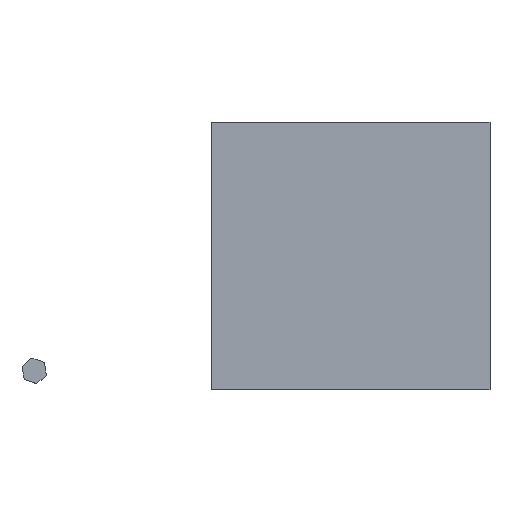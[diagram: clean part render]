
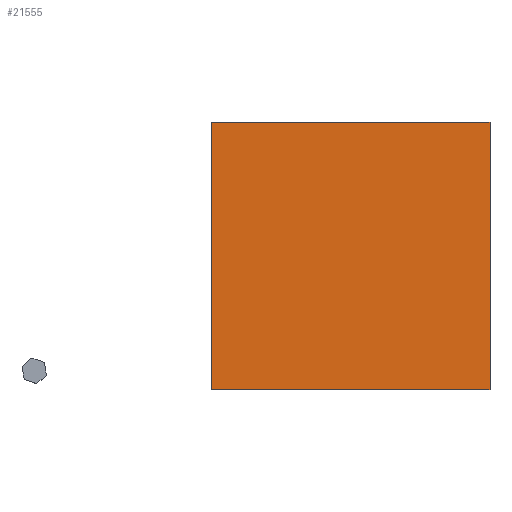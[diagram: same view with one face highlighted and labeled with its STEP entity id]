
A CAD part, top view. The second image highlights one B-rep face of the part: STEP entity #21555.
In plain terms, the highlighted planar face has unit normal (0, 0, 1).
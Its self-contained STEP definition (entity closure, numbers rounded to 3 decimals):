
#1966=PLANE('',#23663);
#3217=FACE_OUTER_BOUND('',#4700,.T.);
#4700=EDGE_LOOP('',(#19904,#19905,#19906,#19907));
#6923=LINE('',#37442,#9224);
#6948=LINE('',#37491,#9249);
#6952=LINE('',#37500,#9253);
#6954=LINE('',#37503,#9255);
#9224=VECTOR('',#29336,10.);
#9249=VECTOR('',#29377,10.);
#9253=VECTOR('',#29387,10.);
#9255=VECTOR('',#29391,10.);
#11449=VERTEX_POINT('',#37440);
#11450=VERTEX_POINT('',#37441);
#11466=VERTEX_POINT('',#37489);
#11468=VERTEX_POINT('',#37499);
#14264=EDGE_CURVE('',#11449,#11450,#6923,.T.);
#14289=EDGE_CURVE('',#11466,#11449,#6948,.T.);
#14293=EDGE_CURVE('',#11468,#11450,#6952,.T.);
#14295=EDGE_CURVE('',#11466,#11468,#6954,.T.);
#19904=ORIENTED_EDGE('',*,*,#14295,.T.);
#19905=ORIENTED_EDGE('',*,*,#14293,.T.);
#19906=ORIENTED_EDGE('',*,*,#14264,.F.);
#19907=ORIENTED_EDGE('',*,*,#14289,.F.);
#21555=ADVANCED_FACE('',(#3217),#1966,.T.);
#23663=AXIS2_PLACEMENT_3D('',#37504,#29392,#29393);
#29336=DIRECTION('',(0.,-1.,0.));
#29377=DIRECTION('',(1.,0.,0.));
#29387=DIRECTION('',(1.,0.,0.));
#29391=DIRECTION('',(0.,-1.,0.));
#29392=DIRECTION('center_axis',(0.,0.,1.));
#29393=DIRECTION('ref_axis',(0.,1.,0.));
#37440=CARTESIAN_POINT('',(71.,66.,16.));
#37441=CARTESIAN_POINT('',(71.,-5.,16.));
#37442=CARTESIAN_POINT('',(71.,-5.,16.));
#37489=CARTESIAN_POINT('',(-3.,66.,16.));
#37491=CARTESIAN_POINT('',(75.,66.,16.));
#37499=CARTESIAN_POINT('',(-3.,-5.,16.));
#37500=CARTESIAN_POINT('',(67.,-5.,16.));
#37503=CARTESIAN_POINT('',(-3.,64.,16.));
#37504=CARTESIAN_POINT('Origin',(75.,-3.,16.));
